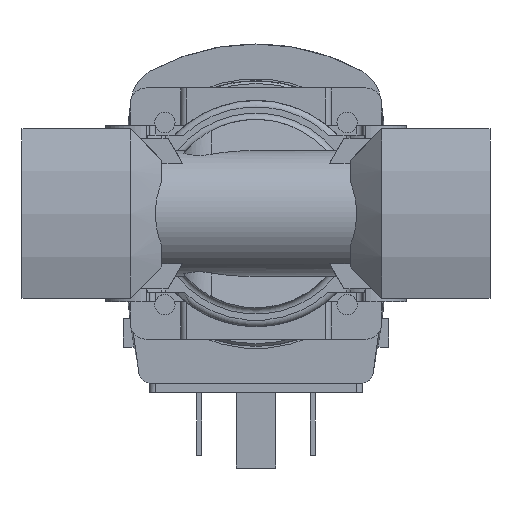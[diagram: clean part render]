
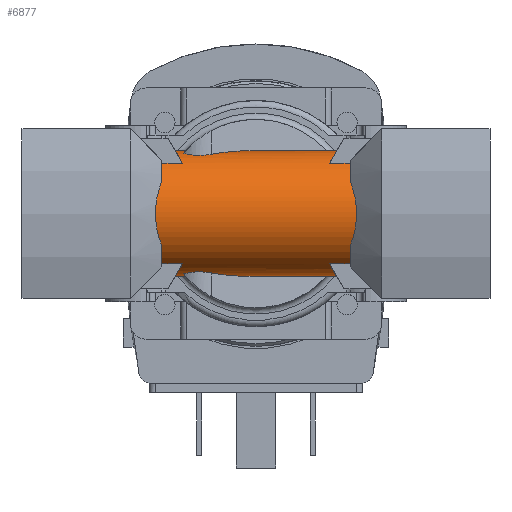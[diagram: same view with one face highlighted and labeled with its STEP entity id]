
A CAD part, front view. The second image highlights one B-rep face of the part: STEP entity #6877.
In plain terms, the highlighted cylindrical face has radius 10 mm (diameter 20 mm), a partial arc.
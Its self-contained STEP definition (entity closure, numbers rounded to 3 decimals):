
#18=ELLIPSE('',#7335,11.547,10.);
#19=ELLIPSE('',#7338,11.547,10.);
#20=ELLIPSE('',#7339,21.301,10.);
#21=ELLIPSE('',#7340,11.547,10.);
#22=ELLIPSE('',#7343,11.547,10.);
#23=ELLIPSE('',#7344,21.301,10.);
#285=B_SPLINE_CURVE_WITH_KNOTS('',3,(#10059,#10060,#10061,#10062,#10063,
#10064,#10065),.UNSPECIFIED.,.F.,.F.,(4,1,1,1,4),(0.,0.003,
0.005,0.008,0.011),
 .UNSPECIFIED.);
#286=B_SPLINE_CURVE_WITH_KNOTS('',3,(#10077,#10078,#10079,#10080,#10081),
 .UNSPECIFIED.,.F.,.F.,(4,1,4),(0.004,0.006,
0.009),.UNSPECIFIED.);
#287=B_SPLINE_CURVE_WITH_KNOTS('',3,(#10083,#10084,#10085,#10086),
 .UNSPECIFIED.,.F.,.F.,(4,4),(0.029,0.032),
 .UNSPECIFIED.);
#288=B_SPLINE_CURVE_WITH_KNOTS('',3,(#10096,#10097,#10098,#10099,#10100,
#10101,#10102),.UNSPECIFIED.,.F.,.F.,(4,1,1,1,4),(0.,0.003,
0.005,0.008,0.011),
 .UNSPECIFIED.);
#289=B_SPLINE_CURVE_WITH_KNOTS('',3,(#10112,#10113,#10114,#10115),
 .UNSPECIFIED.,.F.,.F.,(4,4),(0.,0.003),
 .UNSPECIFIED.);
#290=B_SPLINE_CURVE_WITH_KNOTS('',3,(#10117,#10118,#10119,#10120,#10121),
 .UNSPECIFIED.,.F.,.F.,(4,1,4),(0.003,0.006,
0.008),.UNSPECIFIED.);
#388=CYLINDRICAL_SURFACE('',#7334,10.);
#557=CIRCLE('',#7336,10.);
#558=CIRCLE('',#7337,10.);
#559=CIRCLE('',#7341,10.);
#560=CIRCLE('',#7342,10.);
#1056=ORIENTED_EDGE('',*,*,#2549,.F.);
#1057=ORIENTED_EDGE('',*,*,#2550,.F.);
#1058=ORIENTED_EDGE('',*,*,#2551,.F.);
#1059=ORIENTED_EDGE('',*,*,#2552,.T.);
#1060=ORIENTED_EDGE('',*,*,#2553,.F.);
#1061=ORIENTED_EDGE('',*,*,#2554,.F.);
#1062=ORIENTED_EDGE('',*,*,#2555,.F.);
#1063=ORIENTED_EDGE('',*,*,#2556,.T.);
#1064=ORIENTED_EDGE('',*,*,#2557,.F.);
#1065=ORIENTED_EDGE('',*,*,#2558,.T.);
#1066=ORIENTED_EDGE('',*,*,#2559,.T.);
#1067=ORIENTED_EDGE('',*,*,#2560,.T.);
#1068=ORIENTED_EDGE('',*,*,#2561,.F.);
#1069=ORIENTED_EDGE('',*,*,#2562,.F.);
#1070=ORIENTED_EDGE('',*,*,#2563,.T.);
#1071=ORIENTED_EDGE('',*,*,#2564,.F.);
#1072=ORIENTED_EDGE('',*,*,#2565,.T.);
#1073=ORIENTED_EDGE('',*,*,#2566,.F.);
#1074=ORIENTED_EDGE('',*,*,#2567,.F.);
#1075=ORIENTED_EDGE('',*,*,#2568,.F.);
#1076=ORIENTED_EDGE('',*,*,#2569,.T.);
#1077=ORIENTED_EDGE('',*,*,#2570,.T.);
#1078=ORIENTED_EDGE('',*,*,#2571,.F.);
#1079=ORIENTED_EDGE('',*,*,#2572,.F.);
#2549=EDGE_CURVE('',#3335,#3336,#18,.T.);
#2550=EDGE_CURVE('',#3337,#3335,#3814,.T.);
#2551=EDGE_CURVE('',#3338,#3337,#557,.T.);
#2552=EDGE_CURVE('',#3338,#3339,#285,.T.);
#2553=EDGE_CURVE('',#3340,#3339,#558,.T.);
#2554=EDGE_CURVE('',#3341,#3340,#3815,.F.);
#2555=EDGE_CURVE('',#3342,#3341,#19,.T.);
#2556=EDGE_CURVE('',#3342,#3343,#3816,.T.);
#2557=EDGE_CURVE('',#3344,#3343,#20,.F.);
#2558=EDGE_CURVE('',#3344,#3345,#286,.T.);
#2559=EDGE_CURVE('',#3345,#3346,#287,.T.);
#2560=EDGE_CURVE('',#3346,#3347,#3817,.T.);
#2561=EDGE_CURVE('',#3348,#3347,#21,.T.);
#2562=EDGE_CURVE('',#3349,#3348,#3818,.F.);
#2563=EDGE_CURVE('',#3349,#3350,#559,.T.);
#2564=EDGE_CURVE('',#3351,#3350,#288,.T.);
#2565=EDGE_CURVE('',#3351,#3352,#560,.T.);
#2566=EDGE_CURVE('',#3353,#3352,#3819,.T.);
#2567=EDGE_CURVE('',#3354,#3353,#22,.T.);
#2568=EDGE_CURVE('',#3355,#3354,#3820,.T.);
#2569=EDGE_CURVE('',#3355,#3356,#289,.T.);
#2570=EDGE_CURVE('',#3356,#3357,#290,.T.);
#2571=EDGE_CURVE('',#3358,#3357,#23,.F.);
#2572=EDGE_CURVE('',#3336,#3358,#3821,.T.);
#3335=VERTEX_POINT('',#10053);
#3336=VERTEX_POINT('',#10054);
#3337=VERTEX_POINT('',#10056);
#3338=VERTEX_POINT('',#10058);
#3339=VERTEX_POINT('',#10066);
#3340=VERTEX_POINT('',#10068);
#3341=VERTEX_POINT('',#10070);
#3342=VERTEX_POINT('',#10072);
#3343=VERTEX_POINT('',#10074);
#3344=VERTEX_POINT('',#10076);
#3345=VERTEX_POINT('',#10082);
#3346=VERTEX_POINT('',#10087);
#3347=VERTEX_POINT('',#10089);
#3348=VERTEX_POINT('',#10091);
#3349=VERTEX_POINT('',#10093);
#3350=VERTEX_POINT('',#10095);
#3351=VERTEX_POINT('',#10103);
#3352=VERTEX_POINT('',#10105);
#3353=VERTEX_POINT('',#10107);
#3354=VERTEX_POINT('',#10109);
#3355=VERTEX_POINT('',#10111);
#3356=VERTEX_POINT('',#10116);
#3357=VERTEX_POINT('',#10122);
#3358=VERTEX_POINT('',#10124);
#3814=LINE('',#10055,#4278);
#3815=LINE('',#10069,#4279);
#3816=LINE('',#10073,#4280);
#3817=LINE('',#10088,#4281);
#3818=LINE('',#10092,#4282);
#3819=LINE('',#10106,#4283);
#3820=LINE('',#10110,#4284);
#3821=LINE('',#10125,#4285);
#4278=VECTOR('',#8260,1000.);
#4279=VECTOR('',#8265,1000.);
#4280=VECTOR('',#8268,1000.);
#4281=VECTOR('',#8271,1000.);
#4282=VECTOR('',#8274,1000.);
#4283=VECTOR('',#8279,1000.);
#4284=VECTOR('',#8282,1000.);
#4285=VECTOR('',#8285,1000.);
#4790=EDGE_LOOP('',(#1056,#1057,#1058,#1059,#1060,#1061,#1062,#1063,#1064,
#1065,#1066,#1067,#1068,#1069,#1070,#1071,#1072,#1073,#1074,#1075,#1076,
#1077,#1078,#1079));
#5218=FACE_BOUND('',#4790,.T.);
#6877=ADVANCED_FACE('',(#5218),#388,.T.);
#7334=AXIS2_PLACEMENT_3D('',#10051,#8256,#8257);
#7335=AXIS2_PLACEMENT_3D('',#10052,#8258,#8259);
#7336=AXIS2_PLACEMENT_3D('',#10057,#8261,#8262);
#7337=AXIS2_PLACEMENT_3D('',#10067,#8263,#8264);
#7338=AXIS2_PLACEMENT_3D('',#10071,#8266,#8267);
#7339=AXIS2_PLACEMENT_3D('',#10075,#8269,#8270);
#7340=AXIS2_PLACEMENT_3D('',#10090,#8272,#8273);
#7341=AXIS2_PLACEMENT_3D('',#10094,#8275,#8276);
#7342=AXIS2_PLACEMENT_3D('',#10104,#8277,#8278);
#7343=AXIS2_PLACEMENT_3D('',#10108,#8280,#8281);
#7344=AXIS2_PLACEMENT_3D('',#10123,#8283,#8284);
#8256=DIRECTION('',(-1.,0.,0.));
#8257=DIRECTION('',(0.,0.,1.));
#8258=DIRECTION('',(0.866,0.,0.5));
#8259=DIRECTION('',(-0.5,0.,0.866));
#8260=DIRECTION('',(-1.,0.,0.));
#8261=DIRECTION('',(1.,0.,0.));
#8262=DIRECTION('',(0.,0.,-1.));
#8263=DIRECTION('',(1.,0.,0.));
#8264=DIRECTION('',(0.,0.,-1.));
#8265=DIRECTION('',(-1.,0.,0.));
#8266=DIRECTION('',(0.866,0.,-0.5));
#8267=DIRECTION('',(-0.5,0.,-0.866));
#8268=DIRECTION('',(-1.,0.,0.));
#8269=DIRECTION('',(0.469,-0.883,0.));
#8270=DIRECTION('',(-0.883,-0.469,0.));
#8271=DIRECTION('',(-1.,0.,0.));
#8272=DIRECTION('',(-0.866,0.,-0.5));
#8273=DIRECTION('',(-0.5,0.,0.866));
#8274=DIRECTION('',(-1.,0.,0.));
#8275=DIRECTION('',(1.,0.,0.));
#8276=DIRECTION('',(0.,0.,-1.));
#8277=DIRECTION('',(1.,0.,0.));
#8278=DIRECTION('',(0.,0.,-1.));
#8279=DIRECTION('',(-1.,0.,0.));
#8280=DIRECTION('',(-0.866,0.,0.5));
#8281=DIRECTION('',(-0.5,0.,-0.866));
#8282=DIRECTION('',(-1.,0.,0.));
#8283=DIRECTION('',(0.469,-0.883,0.));
#8284=DIRECTION('',(-0.883,-0.469,0.));
#8285=DIRECTION('',(-1.,0.,0.));
#10051=CARTESIAN_POINT('',(20.,0.,0.));
#10052=CARTESIAN_POINT('',(7.072,0.,0.));
#10053=CARTESIAN_POINT('',(11.691,-6.,-8.));
#10054=CARTESIAN_POINT('',(12.845,0.,-10.));
#10055=CARTESIAN_POINT('',(20.,-6.,-8.));
#10056=CARTESIAN_POINT('',(15.,-6.,-8.));
#10057=CARTESIAN_POINT('',(15.,0.,0.));
#10058=CARTESIAN_POINT('',(15.,-8.635,-5.044));
#10059=CARTESIAN_POINT('',(15.,-8.635,-5.044));
#10060=CARTESIAN_POINT('',(15.319,-9.064,-4.309));
#10061=CARTESIAN_POINT('',(15.819,-9.749,-2.709));
#10062=CARTESIAN_POINT('',(16.089,-10.124,-0.009));
#10063=CARTESIAN_POINT('',(15.823,-9.754,2.694));
#10064=CARTESIAN_POINT('',(15.319,-9.064,4.309));
#10065=CARTESIAN_POINT('',(15.,-8.635,5.044));
#10066=CARTESIAN_POINT('',(15.,-8.635,5.044));
#10067=CARTESIAN_POINT('',(15.,0.,0.));
#10068=CARTESIAN_POINT('',(15.,-6.,8.));
#10069=CARTESIAN_POINT('',(20.,-6.,8.));
#10070=CARTESIAN_POINT('',(11.691,-6.,8.));
#10071=CARTESIAN_POINT('',(7.072,0.,0.));
#10072=CARTESIAN_POINT('',(12.845,0.,10.));
#10073=CARTESIAN_POINT('',(20.,0.,10.));
#10074=CARTESIAN_POINT('',(-0.94,0.,10.));
#10075=CARTESIAN_POINT('',(-0.94,0.,0.));
#10076=CARTESIAN_POINT('',(-7.122,-3.287,9.444));
#10077=CARTESIAN_POINT('',(-7.122,-3.287,9.444));
#10078=CARTESIAN_POINT('',(-7.812,-3.654,9.317));
#10079=CARTESIAN_POINT('',(-9.424,-3.974,9.174));
#10080=CARTESIAN_POINT('',(-10.938,-3.339,9.44));
#10081=CARTESIAN_POINT('',(-11.537,-2.847,9.586));
#10082=CARTESIAN_POINT('',(-11.537,-2.847,9.586));
#10083=CARTESIAN_POINT('',(-11.537,-2.847,9.586));
#10084=CARTESIAN_POINT('',(-11.313,-1.94,9.856));
#10085=CARTESIAN_POINT('',(-11.18,-0.981,10.));
#10086=CARTESIAN_POINT('',(-11.18,0.,10.));
#10087=CARTESIAN_POINT('',(-11.18,0.,10.));
#10088=CARTESIAN_POINT('',(20.,0.,10.));
#10089=CARTESIAN_POINT('',(-12.845,0.,10.));
#10090=CARTESIAN_POINT('',(-7.072,0.,0.));
#10091=CARTESIAN_POINT('',(-11.691,-6.,8.));
#10092=CARTESIAN_POINT('',(20.,-6.,8.));
#10093=CARTESIAN_POINT('',(-15.,-6.,8.));
#10094=CARTESIAN_POINT('',(-15.,0.,0.));
#10095=CARTESIAN_POINT('',(-15.,-8.635,5.044));
#10096=CARTESIAN_POINT('',(-15.,-8.635,-5.044));
#10097=CARTESIAN_POINT('',(-15.319,-9.064,-4.309));
#10098=CARTESIAN_POINT('',(-15.819,-9.749,-2.709));
#10099=CARTESIAN_POINT('',(-16.089,-10.124,-0.009));
#10100=CARTESIAN_POINT('',(-15.823,-9.754,2.694));
#10101=CARTESIAN_POINT('',(-15.319,-9.064,4.309));
#10102=CARTESIAN_POINT('',(-15.,-8.635,5.044));
#10103=CARTESIAN_POINT('',(-15.,-8.635,-5.044));
#10104=CARTESIAN_POINT('',(-15.,0.,0.));
#10105=CARTESIAN_POINT('',(-15.,-6.,-8.));
#10106=CARTESIAN_POINT('',(20.,-6.,-8.));
#10107=CARTESIAN_POINT('',(-11.691,-6.,-8.));
#10108=CARTESIAN_POINT('',(-7.072,0.,0.));
#10109=CARTESIAN_POINT('',(-12.845,0.,-10.));
#10110=CARTESIAN_POINT('',(20.,0.,-10.));
#10111=CARTESIAN_POINT('',(-11.18,0.,-10.));
#10112=CARTESIAN_POINT('',(-11.18,0.,-10.));
#10113=CARTESIAN_POINT('',(-11.18,-0.984,-10.));
#10114=CARTESIAN_POINT('',(-11.311,-1.931,-9.858));
#10115=CARTESIAN_POINT('',(-11.537,-2.847,-9.586));
#10116=CARTESIAN_POINT('',(-11.537,-2.847,-9.586));
#10117=CARTESIAN_POINT('',(-11.537,-2.847,-9.586));
#10118=CARTESIAN_POINT('',(-10.94,-3.337,-9.441));
#10119=CARTESIAN_POINT('',(-9.428,-3.974,-9.174));
#10120=CARTESIAN_POINT('',(-7.813,-3.654,-9.317));
#10121=CARTESIAN_POINT('',(-7.122,-3.287,-9.444));
#10122=CARTESIAN_POINT('',(-7.122,-3.287,-9.444));
#10123=CARTESIAN_POINT('',(-0.94,0.,0.));
#10124=CARTESIAN_POINT('',(-0.94,0.,-10.));
#10125=CARTESIAN_POINT('',(20.,0.,-10.));
